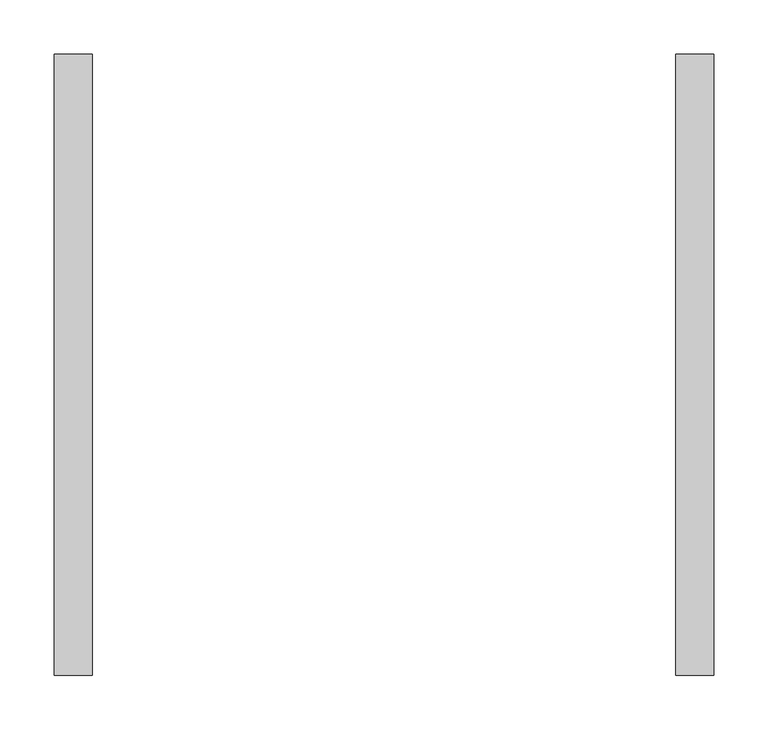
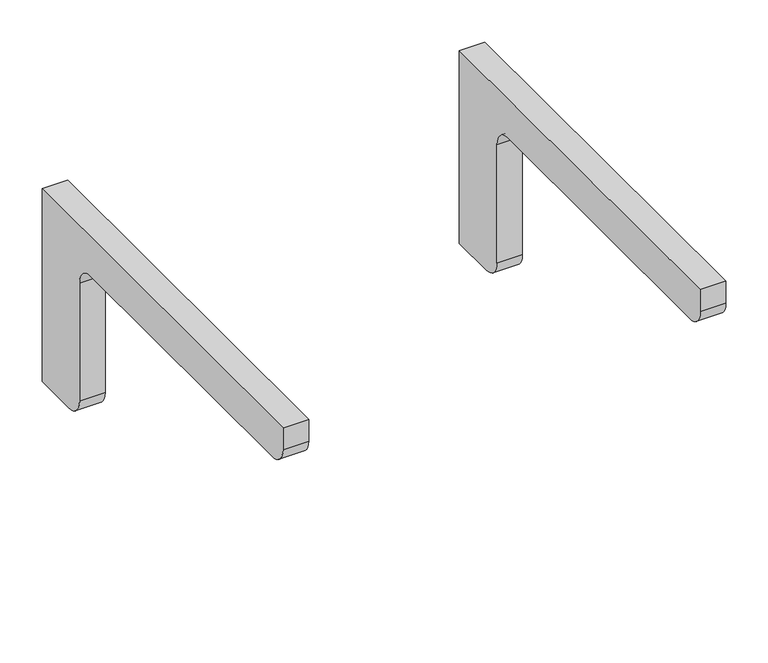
"""IFC4 building model written with IfcOpenShell, lengths in millimetres: furniture geometry."""

import ifcopenshell
import ifcopenshell.guid

model = None  # the IFC model being written
_history = None  # IfcOwnerHistory: only IFC2X3 demands one
_inside = {}  # id of a spatial element -> (the spatial element, [elements in it])
_under = {}  # id of a project, library or spatial element -> (it, [spatial elements below it])
_declared = {}  # id of a project -> (the project, [libraries it declares])
_typed = {}  # id of a type object -> (the type object, [elements of that type])
_made_of = {}  # id of a material, layer set ... -> (it, [elements and type objects made of it])


def new_model(schema):
    """Start an empty IFC model of exactly this schema.

    Asked for "IFC4X3", IfcOpenShell would pick the latest addendum, in which some entities
    have other attributes; the version numbers below select the first issue.
    IFC2X3 requires an IfcOwnerHistory on every rooted entity: one is made here for all.
    """
    global model, _history
    if schema == "IFC4X3":
        model = ifcopenshell.file(schema_version=(4, 3, 0, 0))
    else:
        model = ifcopenshell.file(schema=schema)
    _inside.clear()
    _under.clear()
    _declared.clear()
    _typed.clear()
    _made_of.clear()
    _history = None
    if model.schema == "IFC2X3":
        org = make("IfcOrganization", Name="unknown")
        user = make(
            "IfcPersonAndOrganization",
            ThePerson=make("IfcPerson", FamilyName="unknown"),
            TheOrganization=org,
        )
        app = make(
            "IfcApplication",
            ApplicationDeveloper=org,
            Version="unknown",
            ApplicationFullName="unknown",
            ApplicationIdentifier="unknown",
        )
        _history = make(
            "IfcOwnerHistory",
            OwningUser=user,
            OwningApplication=app,
            ChangeAction="ADDED",
            CreationDate=0,
        )
    return model


def make(cls, **values):
    """One entity of the class cls with the attributes given. An attribute that is None is left unset."""
    return model.create_entity(
        cls, **{name: value for name, value in values.items() if value is not None}
    )


def rooted(cls, **values):
    """An entity with a GlobalId (a new one), such as an element, a storey or a relation."""
    return make(cls, GlobalId=ifcopenshell.guid.new(), OwnerHistory=_history, **values)


def si_unit(unit_type, name, prefix=None):
    """IfcSIUnit, for example si_unit("LENGTHUNIT", "METRE", prefix="MILLI")."""
    return make("IfcSIUnit", UnitType=unit_type, Prefix=prefix, Name=name)


def assignment(units):
    """IfcUnitAssignment: the units of a project."""
    return None if units is None else make("IfcUnitAssignment", Units=units)


def point(xyz):
    """IfcCartesianPoint."""
    return None if xyz is None else make("IfcCartesianPoint", Coordinates=xyz)


def direction(xyz):
    """IfcDirection."""
    return None if xyz is None else make("IfcDirection", DirectionRatios=xyz)


def frame(location, z_axis=None, x_axis=None):
    """IfcAxis2Placement3D, a coordinate frame: its origin and axes. An axis left out is left unset."""
    return make(
        "IfcAxis2Placement3D",
        Location=point(location),
        Axis=direction(z_axis),
        RefDirection=direction(x_axis),
    )


def frame_2d(location, x_axis=None):
    """IfcAxis2Placement2D, a coordinate frame in the plane: its origin and x axis."""
    return make(
        "IfcAxis2Placement2D", Location=point(location), RefDirection=direction(x_axis)
    )


def origin():
    """The frame at (0, 0, 0) with its axes left unset."""
    return frame((0.0, 0.0, 0.0))


def place(relative_to, where):
    """IfcLocalPlacement: puts the frame where relative to a parent placement (None: the world)."""
    return make(
        "IfcLocalPlacement", PlacementRelTo=relative_to, RelativePlacement=where
    )


def context(
    kind, dimensions, precision=None, world=None, true_north=None, identifier=None
):
    """IfcGeometricRepresentationContext, for example the 3D "Model" context."""
    return make(
        "IfcGeometricRepresentationContext",
        ContextIdentifier=identifier,
        ContextType=kind,
        CoordinateSpaceDimension=dimensions,
        Precision=precision,
        WorldCoordinateSystem=world,
        TrueNorth=true_north,
    )


def project(units=None, contexts=None):
    """IfcProject with its units and contexts."""
    return rooted(
        "IfcProject",
        Name="project",
        RepresentationContexts=contexts,
        UnitsInContext=assignment(units),
    )


def spatial(cls, under=None, at=None, **own):
    """A site, building, storey or space (cls), placed at a placement, below another one or the project."""
    s = rooted(cls, ObjectPlacement=at, **own)
    if under is not None:
        _under.setdefault(under.id(), (under, []))[1].append(s)
    return s


def polyline(points):
    """IfcPolyline through the points."""
    return make("IfcPolyline", Points=[point(p) for p in points])


def circle_curve(where, radius):
    """IfcCircle in the frame where."""
    return make("IfcCircle", Position=where, Radius=radius)


def trimmed(basis, trim1, trim2, sense, master):
    """IfcTrimmedCurve: the piece of a basis curve between two trims."""
    return make(
        "IfcTrimmedCurve",
        BasisCurve=basis,
        Trim1=trim1,
        Trim2=trim2,
        SenseAgreement=sense,
        MasterRepresentation=master,
    )


def segment(curve, same_sense, transition):
    """IfcCompositeCurveSegment."""
    return make(
        "IfcCompositeCurveSegment",
        Transition=transition,
        SameSense=same_sense,
        ParentCurve=curve,
    )


def composite_curve(segments, self_intersect=None):
    """IfcCompositeCurve: segments joined end to end."""
    return make("IfcCompositeCurve", Segments=segments, SelfIntersect=self_intersect)


def outline(outer, holes=None, kind="AREA"):
    """IfcArbitraryClosedProfileDef: a profile drawn as a closed curve; with holes, ...WithVoids."""
    if holes is None:
        return make("IfcArbitraryClosedProfileDef", ProfileType=kind, OuterCurve=outer)
    return make(
        "IfcArbitraryProfileDefWithVoids",
        ProfileType=kind,
        OuterCurve=outer,
        InnerCurves=holes,
    )


def extrude(swept, where, along, depth):
    """IfcExtrudedAreaSolid: the profile swept, set in the frame where, extruded along a direction by depth."""
    return make(
        "IfcExtrudedAreaSolid",
        SweptArea=swept,
        Position=where,
        ExtrudedDirection=direction(along),
        Depth=depth,
    )


def shape(context_of_items, identifier, shape_type, items):
    """IfcShapeRepresentation: the items that make up one representation, for example the "Body"."""
    return make(
        "IfcShapeRepresentation",
        ContextOfItems=context_of_items,
        RepresentationIdentifier=identifier,
        RepresentationType=shape_type,
        Items=items,
    )


def source(mapping_origin, context_of_items, identifier, shape_type, items):
    """IfcRepresentationMap: a shape defined once, which mapped items show again and again."""
    return make(
        "IfcRepresentationMap",
        MappingOrigin=mapping_origin,
        MappedRepresentation=shape(context_of_items, identifier, shape_type, items),
    )


def transform(
    local_origin,
    x_axis=None,
    y_axis=None,
    z_axis=None,
    scale=None,
    scale2=None,
    scale3=None,
    uniform=True,
):
    """IfcCartesianTransformationOperator3D, or its non-uniform kind. x_axis, y_axis, z_axis: its Axis1, 2, 3."""
    if uniform:
        return make(
            "IfcCartesianTransformationOperator3D",
            Axis1=direction(x_axis),
            Axis2=direction(y_axis),
            LocalOrigin=point(local_origin),
            Scale=scale,
            Axis3=direction(z_axis),
        )
    return make(
        "IfcCartesianTransformationOperator3DnonUniform",
        Axis1=direction(x_axis),
        Axis2=direction(y_axis),
        LocalOrigin=point(local_origin),
        Scale=scale,
        Axis3=direction(z_axis),
        Scale2=scale2,
        Scale3=scale3,
    )


def mapped(mapping_source, mapping_target):
    """IfcMappedItem: shows the shape of a source again, moved by a transform."""
    return make(
        "IfcMappedItem", MappingSource=mapping_source, MappingTarget=mapping_target
    )


def made_of(thing, what):
    """Note that an element or type object is made of a material, layer set ...; save() writes the relation."""
    if what is not None:
        _made_of.setdefault(what.id(), (what, []))[1].append(thing)
    return thing


def element(
    cls,
    number,
    at=None,
    inside=None,
    cuts=None,
    type_object=None,
    material=None,
    context=None,
    identifier="Body",
    shape_type=None,
    held_by="IfcProductDefinitionShape",
    body=None,
    shapes=None,
    **own,
):
    """One element of the class cls, such as IfcWall. Its Tag is "e" and its number.

    at: its placement. inside: the storey or other place that contains it. cuts: it is an
    opening in that element (IfcRelVoidsElement). A single representation is given by context,
    identifier, shape_type and body (its items); several are given by shapes. held_by: the class
    of the entity that holds the representations. save() writes the other relations.
    """
    e = rooted(cls, Tag="e%d" % number, ObjectPlacement=at, **own)
    if body is not None:
        shapes = [shape(context, identifier, shape_type, body)]
    if shapes is not None:
        e.Representation = make(held_by, Representations=shapes)
    if inside is not None:
        _inside.setdefault(inside.id(), (inside, []))[1].append(e)
    if cuts is not None:
        rooted(
            "IfcRelVoidsElement", RelatingBuildingElement=cuts, RelatedOpeningElement=e
        )
    if type_object is not None:
        _typed.setdefault(type_object.id(), (type_object, []))[1].append(e)
    return made_of(e, material)


def aggregate(whole, parts):
    """IfcRelAggregates: a whole, such as a stair, and the parts it consists of."""
    return rooted("IfcRelAggregates", RelatingObject=whole, RelatedObjects=parts)


def save(model, path):
    """Write the relations noted so far, then the file.

    IfcRelAggregates (storeys below a building ...), IfcRelContainedInSpatialStructure (elements
    in a storey), IfcRelDefinesByType, IfcRelAssociatesMaterial and IfcRelDeclares: one each for
    every whole, place, type object, material and project.
    """
    for whole, parts in _under.values():
        aggregate(whole, parts)
    for where, things in _inside.values():
        rooted(
            "IfcRelContainedInSpatialStructure",
            RelatedElements=things,
            RelatingStructure=where,
        )
    for kind, things in _typed.values():
        rooted("IfcRelDefinesByType", RelatedObjects=things, RelatingType=kind)
    for what, things in _made_of.values():
        rooted("IfcRelAssociatesMaterial", RelatedObjects=things, RelatingMaterial=what)
    for by, libraries in _declared.values():
        rooted("IfcRelDeclares", RelatingContext=by, RelatedDefinitions=libraries)
    model.write(path)


def furniture_75e43aeb(model_context):
    return source(origin(), model_context, "Body", "SweptSolid", [
        extrude(outline(composite_curve([segment(polyline([(177.8, 882.65), (177.8, 603.25), (114.3, 603.25)]), True, "CONTINUOUS"), segment(trimmed(circle_curve(frame_2d((114.3, 628.65)), 25.4), [point((114.3, 603.25))], [point((88.9, 628.65))], False, "CARTESIAN"), True, "CONTINUOUS"), segment(polyline([(88.9, 628.65), (88.9, 800.1)]), True, "CONTINUOUS"), segment(trimmed(circle_curve(frame_2d((63.5, 800.1)), 25.4), [point((88.9, 800.1))], [point((63.5, 825.5))], True, "CARTESIAN"), True, "CONTINUOUS"), segment(polyline([(63.5, 825.5), (-368.3, 825.5)]), True, "CONTINUOUS"), segment(trimmed(circle_curve(frame_2d((-368.3, 850.9)), 25.4), [point((-368.3, 825.5))], [point((-393.7, 850.9))], False, "CARTESIAN"), True, "CONTINUOUS"), segment(polyline([(-393.7, 850.9), (-393.7, 882.65), (177.8, 882.65)]), True, "CONTINUOUS")], self_intersect=False)), frame((268.2875, 0.0, 0.0), z_axis=(1.0, 0.0, 0.0), x_axis=(0.0, 1.0, 0.0)), (0.0, 0.0, 1.0), 34.925),
        extrude(outline(composite_curve([segment(polyline([(-393.7, 850.9), (-393.7, 882.65), (177.8, 882.65), (177.8, 603.25), (114.3, 603.25)]), True, "CONTINUOUS"), segment(trimmed(circle_curve(frame_2d((114.3, 628.65)), 25.4), [point((114.3, 603.25))], [point((88.9, 628.65))], False, "CARTESIAN"), True, "CONTINUOUS"), segment(polyline([(88.9, 628.65), (88.9, 800.1)]), True, "CONTINUOUS"), segment(trimmed(circle_curve(frame_2d((63.5, 800.1)), 25.4), [point((88.9, 800.1))], [point((63.5, 825.5))], True, "CARTESIAN"), True, "CONTINUOUS"), segment(polyline([(63.5, 825.5), (-368.3, 825.5)]), True, "CONTINUOUS"), segment(trimmed(circle_curve(frame_2d((-368.3, 850.9)), 25.4), [point((-368.3, 825.5))], [point((-393.7, 850.9))], False, "CARTESIAN"), True, "CONTINUOUS")], self_intersect=False)), frame((-303.2125, 0.0, 0.0), z_axis=(1.0, 0.0, 0.0), x_axis=(0.0, 1.0, 0.0)), (0.0, 0.0, 1.0), 34.925),
    ])


if __name__ == "__main__":
    model = new_model("IFC4")
    model_context = context("Model", 3, world=origin())
    ifc_project = project(units=[si_unit("LENGTHUNIT", "METRE", prefix="MILLI")], contexts=[model_context])
    site = spatial("IfcSite", under=ifc_project)
    building = spatial("IfcBuilding", under=site)
    placement = place(None, origin())
    furniture_shape = furniture_75e43aeb(model_context)
    element("IfcFurniture", 1, ObjectType="HermanMiller_CoStruc_C2140H_WorkSurfaceSupport_Heavy Duty : 11\"H x 24\"D x 24\"W", at=placement, inside=building, context=model_context, shape_type="MappedRepresentation", body=[
        mapped(furniture_shape, transform((0.0, 0.0, 0.0), x_axis=(1.0, 0.0, 0.0), y_axis=(0.0, 1.0, 0.0), z_axis=(0.0, 0.0, 1.0))),
    ])
    save(model, "model.ifc")
